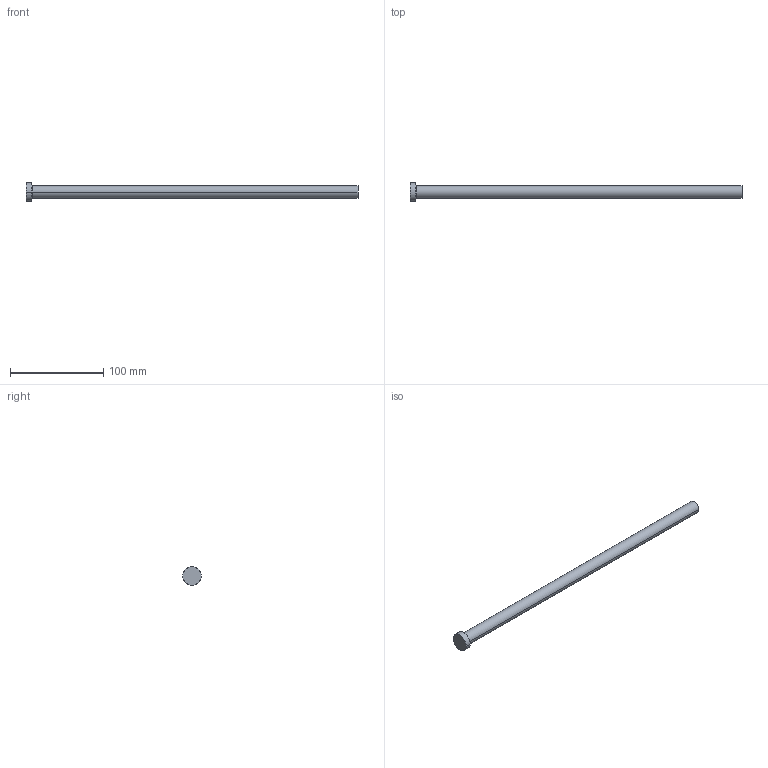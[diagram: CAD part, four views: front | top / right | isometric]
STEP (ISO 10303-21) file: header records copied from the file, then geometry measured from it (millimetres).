
FILE_DESCRIPTION (( 'STEP AP214' ), '1' );
FILE_NAME ('P34-14.STEP', '2020-03-12T11:51:48', ( '' ), ( '' ), 'SwSTEP 2.0', 'SolidWorks 2018', '' );
FILE_SCHEMA (( 'AUTOMOTIVE_DESIGN' ));
Length unit declared in the file: inch
Products named in the file (1): P34-14
Bounding box: 355.6 x 19.84 x 19.84 mm (x, y, z)
Volume: 51819.6 mm3; surface area: 15784.8 mm2
Topology: 1 solids, 1 shells, 13 faces, 24 edges, 14 vertices
Faces by surface type: cone 4, cylinder 4, plane 3, torus 2
Entity records: 366 total; most frequent: DIRECTION 68, CARTESIAN_POINT 52, ORIENTED_EDGE 48, AXIS2_PLACEMENT_3D 30, EDGE_CURVE 24, CIRCLE 16, VERTEX_POINT 14, EDGE_LOOP 14
